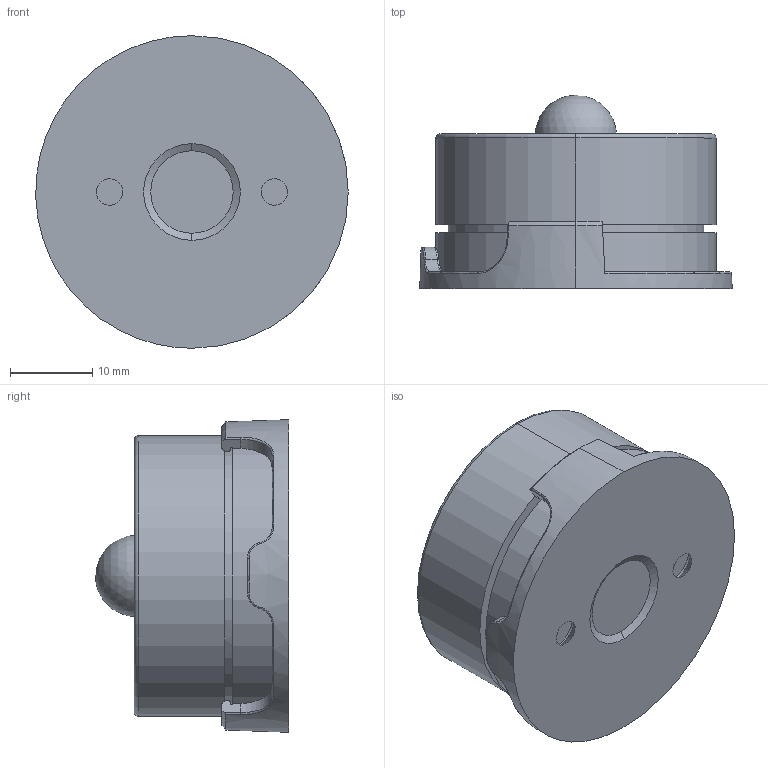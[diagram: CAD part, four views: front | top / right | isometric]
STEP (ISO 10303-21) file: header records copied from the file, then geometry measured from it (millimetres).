
FILE_DESCRIPTION (( 'STEP AP203' ), '1' );
FILE_NAME ('Wireless PIR - With Bracket.STEP', '2021-11-05T11:56:33', ( '' ), ( '' ), 'SwSTEP 2.0', 'SolidWorks 2020', '' );
FILE_SCHEMA (( 'CONFIG_CONTROL_DESIGN' ));
Length unit declared in the file: millimetre
Products named in the file (5): Wireless PIR Battery Cover; PCB & PIR; Wireless PIR - Bracket; Wireless PIR Main Body; Wireless PIR  - With Bracket
Assembly tree (4 placements, depth 2):
  Wireless PIR  - With Bracket
    Wireless PIR Battery Cover
    PCB & PIR
    Wireless PIR Main Body
    Wireless PIR - Bracket
Bounding box: 37.92 x 23.45 x 37.93 mm (x, y, z)
Volume: 10898.9 mm3; surface area: 12729.3 mm2
Topology: 4 solids, 4 shells, 179 faces, 434 edges, 277 vertices
Faces by surface type: plane 62, cylinder 56, cone 24, torus 15, bspline 15, sphere 7
Entity records: 7074 total; most frequent: CARTESIAN_POINT 2498, ORIENTED_EDGE 858, DIRECTION 822, EDGE_CURVE 429, AXIS2_PLACEMENT_3D 333, VERTEX_POINT 275, EDGE_LOOP 204, FACE_OUTER_BOUND 179
